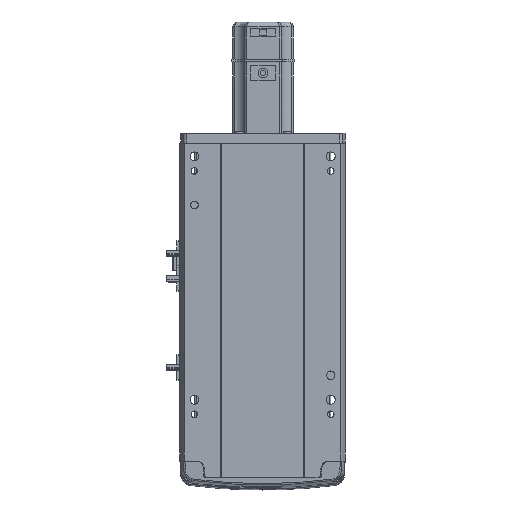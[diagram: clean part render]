
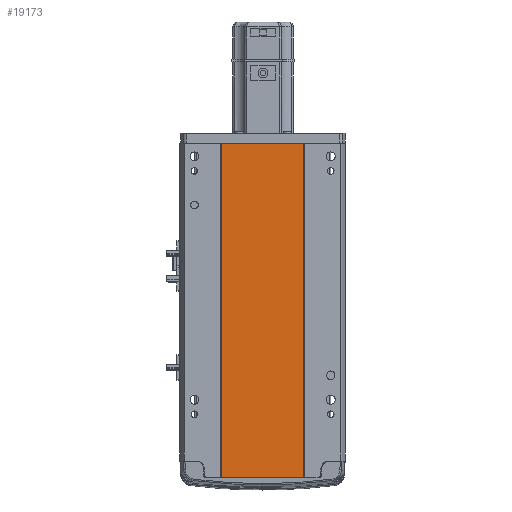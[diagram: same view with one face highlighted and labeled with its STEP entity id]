
A CAD part, front view. The second image highlights one B-rep face of the part: STEP entity #19173.
In plain terms, the highlighted planar face has unit normal (0, -1, 0).
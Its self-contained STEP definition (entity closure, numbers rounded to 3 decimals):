
#966 = VECTOR ( 'NONE', #29357, 1000. ) ;
#1750 = ORIENTED_EDGE ( 'NONE', *, *, #37405, .T. ) ;
#2688 = EDGE_LOOP ( 'NONE', ( #22898, #29576, #44642, #1750 ) ) ;
#4042 = CARTESIAN_POINT ( 'NONE',  ( 0., 0.999, 0. ) ) ;
#5481 = CARTESIAN_POINT ( 'NONE',  ( 0., 0.999, 343.5 ) ) ;
#8458 = CARTESIAN_POINT ( 'NONE',  ( 41.793, 0.998, 343.5 ) ) ;
#9361 = FACE_OUTER_BOUND ( 'NONE', #2688, .T. ) ;
#11458 = AXIS2_PLACEMENT_3D ( 'NONE', #5481, #30176, #16078 ) ;
#11740 = EDGE_CURVE ( 'NONE', #40822, #14558, #29142, .T. ) ;
#12601 = LINE ( 'NONE', #40570, #13183 ) ;
#13183 = VECTOR ( 'NONE', #18765, 1000. ) ;
#14558 = VERTEX_POINT ( 'NONE', #30705 ) ;
#15924 = PLANE ( 'NONE',  #11458 ) ;
#16078 = DIRECTION ( 'NONE',  ( -1., 0., 0. ) ) ;
#16760 = CARTESIAN_POINT ( 'NONE',  ( -41.791, 1., 343.5 ) ) ;
#17836 = CARTESIAN_POINT ( 'NONE',  ( 41.793, 0.998, 343.5 ) ) ;
#18765 = DIRECTION ( 'NONE',  ( 1., 0., 0. ) ) ;
#19173 = ADVANCED_FACE ( 'NONE', ( #9361 ), #15924, .F. ) ;
#19508 = VECTOR ( 'NONE', #38186, 1000. ) ;
#21274 = CARTESIAN_POINT ( 'NONE',  ( -41.791, 1., 0. ) ) ;
#21908 = LINE ( 'NONE', #4042, #966 ) ;
#22209 = VECTOR ( 'NONE', #24216, 1000. ) ;
#22898 = ORIENTED_EDGE ( 'NONE', *, *, #31724, .T. ) ;
#23510 = EDGE_CURVE ( 'NONE', #33203, #40822, #12601, .T. ) ;
#24216 = DIRECTION ( 'NONE',  ( 0., 0., -1. ) ) ;
#29142 = LINE ( 'NONE', #8458, #19508 ) ;
#29357 = DIRECTION ( 'NONE',  ( 1., 0., 0. ) ) ;
#29576 = ORIENTED_EDGE ( 'NONE', *, *, #11740, .F. ) ;
#30176 = DIRECTION ( 'NONE',  ( 0., 1., 0. ) ) ;
#30705 = CARTESIAN_POINT ( 'NONE',  ( 41.793, 0.998, 0. ) ) ;
#31724 = EDGE_CURVE ( 'NONE', #34392, #14558, #21908, .T. ) ;
#33203 = VERTEX_POINT ( 'NONE', #34678 ) ;
#33536 = LINE ( 'NONE', #16760, #22209 ) ;
#34392 = VERTEX_POINT ( 'NONE', #21274 ) ;
#34678 = CARTESIAN_POINT ( 'NONE',  ( -41.791, 1., 343.5 ) ) ;
#37405 = EDGE_CURVE ( 'NONE', #33203, #34392, #33536, .T. ) ;
#38186 = DIRECTION ( 'NONE',  ( 0., 0., -1. ) ) ;
#40570 = CARTESIAN_POINT ( 'NONE',  ( 0., 0.999, 343.5 ) ) ;
#40822 = VERTEX_POINT ( 'NONE', #17836 ) ;
#44642 = ORIENTED_EDGE ( 'NONE', *, *, #23510, .F. ) ;
